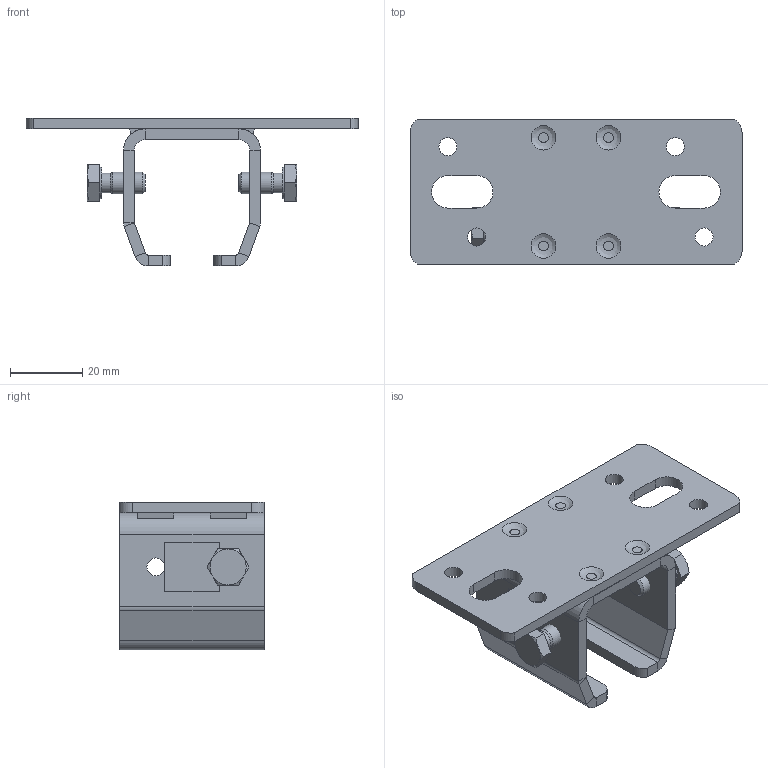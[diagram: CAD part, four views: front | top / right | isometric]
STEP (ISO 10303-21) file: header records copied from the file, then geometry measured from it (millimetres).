
FILE_DESCRIPTION(/* description */ ('Deckenbefestigung Nr.0'),/* implementation_level */ '2;1');
FILE_NAME(/* name */ 'Q:\sge-ma\Produktmanagement-STB\STB\Workspace\stp\010333030.stp',/* time_stamp */ '2015-07-09T13:52:01+02:00',/* author */ ('avschreier'),/* organization */ (''),/* preprocessor_version */ 'ST-DEVELOPER v15.6',/* originating_system */ 'Autodesk Inventor 2015',/* authorisation */ '');
FILE_SCHEMA (('CONFIG_CONTROL_DESIGN'));
Length unit declared in the file: millimetre
Products named in the file (5): 010333030_Schweißnähte; 337000261; 335140000; DIN_EN_ISO_4017-M6x12_en; 010333030
Bounding box: 92 x 40 x 41 mm (x, y, z)
Volume: 25036.4 mm3; surface area: 19700.3 mm2
Topology: 8 solids, 8 shells, 176 faces, 385 edges, 237 vertices
Faces by surface type: plane 108, cylinder 44, cone 16, bspline 8
Full cylindrical faces by diameter (mm): 4.917 x3, 5 x7, 5.459 x2, 6 x2, 8.7 x2
Entity records: 4467 total; most frequent: CARTESIAN_POINT 943, DIRECTION 730, ORIENTED_EDGE 650, EDGE_CURVE 323, AXIS2_PLACEMENT_3D 270, VERTEX_POINT 207, EDGE_LOOP 204, LINE 190
